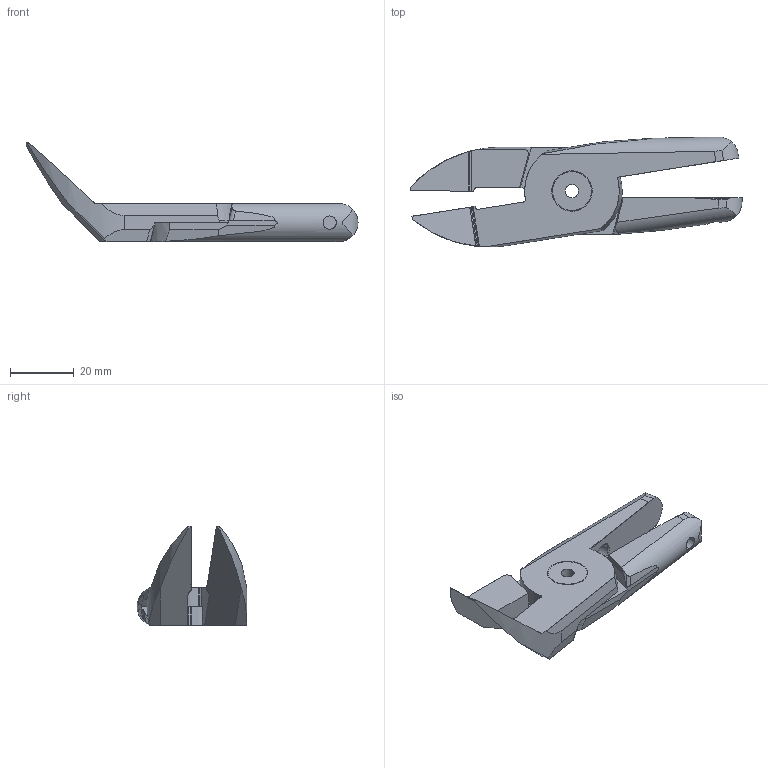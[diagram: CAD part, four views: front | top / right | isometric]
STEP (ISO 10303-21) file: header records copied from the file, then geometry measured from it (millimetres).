
FILE_DESCRIPTION((''),'2;1');
FILE_NAME('GPT-10-RV45.stp','2006-09-20T09:58:31',(''),(''),'Mechanical Desktop 2005','Mechanical Desktop 2005',', , ');
FILE_SCHEMA(('CONFIG_CONTROL_DESIGN'));
Length unit declared in the file: inch
Products named in the file (4): GPT-10-RV45; 10-RV45S; 10-RV45O; 9PRIVIT
Assembly tree (3 placements, depth 2):
  GPT-10-RV45
    10-RV45S
    10-RV45O
    9PRIVIT
Bounding box: 104.14 x 34.47 x 31.12 mm (x, y, z)
Volume: 21262.6 mm3; surface area: 11058 mm2
Topology: 3 solids, 3 shells, 169 faces, 454 edges, 290 vertices
Faces by surface type: cylinder 70, plane 65, cone 20, bspline 10, torus 4
Entity records: 6123 total; most frequent: CARTESIAN_POINT 1757, ORIENTED_EDGE 900, DIRECTION 888, EDGE_CURVE 450, AXIS2_PLACEMENT_3D 331, VERTEX_POINT 290, VECTOR 226, LINE 226
